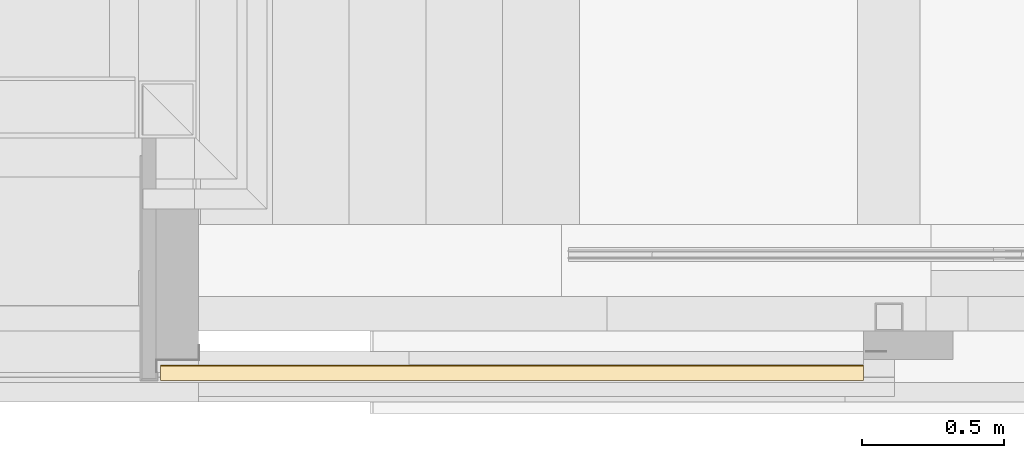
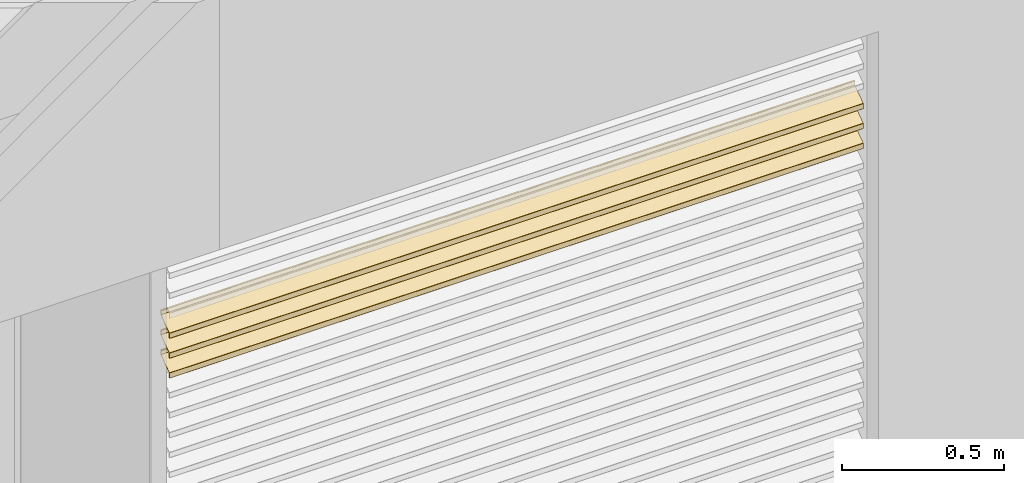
# One storey, part 111 of 165: 3 coverings, 1 element without a shape of its own.
"""IFC2X3 building model written with IfcOpenShell, lengths in millimetres."""

from ifc_helpers import new_model, entity, si_unit, converted_unit, derived_unit, money_unit, direction, frame, origin_with_axes, place, context, subcontext, project, spatial, faceted_brep, material, type_object, element, aggregate, save


model = new_model("IFC2X3")

# Units and contexts
model_context = context("Model", 3, precision=0.01, world=origin_with_axes(), true_north=direction((0.0, 1.0)))
body_context = subcontext(model_context, "Body", "Model", "MODEL_VIEW")
ifc_project = project(units=[si_unit("LENGTHUNIT", "METRE", prefix="MILLI"), si_unit("AREAUNIT", "SQUARE_METRE"), si_unit("VOLUMEUNIT", "CUBIC_METRE"), converted_unit("PLANEANGLEUNIT", "DEGREE", entity("IfcPlaneAngleMeasure", 0.0174532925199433), si_unit("PLANEANGLEUNIT", "RADIAN"), dimensions=[0, 0, 0, 0, 0, 0, 0]), money_unit("EUR"), converted_unit("TIMEUNIT", "Year", entity("IfcTimeMeasure", 31556926.0), si_unit("TIMEUNIT", "SECOND"), dimensions=[0, 0, 1, 0, 0, 0, 0]), si_unit("MASSUNIT", "GRAM", prefix="KILO"), si_unit("THERMODYNAMICTEMPERATUREUNIT", "DEGREE_CELSIUS"), si_unit("LUMINOUSINTENSITYUNIT", "LUMEN"), si_unit("ENERGYUNIT", "JOULE", prefix="MEGA"), derived_unit("THERMALCONDUCTANCEUNIT", [(si_unit("POWERUNIT", "WATT"), 1), (si_unit("LENGTHUNIT", "METRE"), -1), (si_unit("THERMODYNAMICTEMPERATUREUNIT", "KELVIN"), -1)]), derived_unit("SPECIFICHEATCAPACITYUNIT", [(si_unit("ENERGYUNIT", "JOULE"), 1), (si_unit("MASSUNIT", "GRAM", prefix="KILO"), -1), (si_unit("THERMODYNAMICTEMPERATUREUNIT", "KELVIN"), -1)]), derived_unit("MASSDENSITYUNIT", [(si_unit("MASSUNIT", "GRAM", prefix="KILO"), 1), (si_unit("VOLUMEUNIT", "CUBIC_METRE"), -1)])], contexts=[model_context])

# Site, building, storey
site_placement = place(None, origin_with_axes())
site = spatial("IfcSite", under=ifc_project, at=site_placement, Name="Site", CompositionType="ELEMENT")
building_placement = place(site_placement, origin_with_axes())
building = spatial("IfcBuilding", under=site, at=building_placement, Name="Naam gebouw", CompositionType="ELEMENT")
storey_placement = place(building_placement, origin_with_axes())
storey = spatial("IfcBuildingStorey", under=building, at=storey_placement, Name="Begane grond", CompositionType="ELEMENT", Elevation=0.0)

# Beam, coverings
beam_type = type_object("IfcBeamType", Name="30 Duco Louvre deur 55 x 2627", PredefinedType="BEAM")
beam_placement = place(storey_placement, frame((13900.0, -116.9904125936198, 0.0), z_axis=(0.0, 0.0, 1.0), x_axis=(0.0, 1.0, 0.0)))
beam = element("IfcBeam", 1, at=beam_placement, inside=storey, type_object=beam_type, Name="_Regenwaterafvoer-x", ObjectType="BEAM")
ifc_material = material(Name="Metaal - Aluminium")
covering_1_placement = place(beam_placement, origin_with_axes())
covering_1 = element("IfcCovering", 2, at=covering_1_placement, material=ifc_material, Name="Metaal - Aluminium", PredefinedType="NOTDEFINED", context=body_context, shape_type="Brep", body=[
    faceted_brep([(-4.027927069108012, 2473.999999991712, 2183.699501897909), (-56.57357643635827, 2473.999999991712, 2146.906642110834), (-56.57357643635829, 0.0, 2146.906642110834), (-4.027927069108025, 0.0, 2183.699501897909), (-3.90000000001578, 2473.999999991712, 2183.945247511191), (-3.90000000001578, 2473.999999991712, 2199.126428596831), (-3.975892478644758, 2473.999999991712, 2199.325867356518), (-4.165172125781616, 2473.999999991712, 2199.424400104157), (-4.372072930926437, 2473.999999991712, 2199.37217421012), (-5.427927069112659, 2473.999999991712, 2198.632857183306), (-5.634827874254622, 2473.999999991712, 2198.580631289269), (-5.824107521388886, 2473.999999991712, 2198.679164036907), (-5.900000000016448, 2473.999999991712, 2198.878602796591), (-5.900000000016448, 2473.999999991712, 2200.465609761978), (-5.772072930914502, 2473.999999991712, 2200.711355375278), (-2.944145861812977, 2473.999999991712, 2202.691491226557), (-2.53034425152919, 2473.999999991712, 2202.795943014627), (-2.151784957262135, 2473.999999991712, 2202.59887751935), (-2.000000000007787, 2473.999999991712, 2202.199999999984), (-2.000000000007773, 2473.999999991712, 2183.320567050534), (-2.426423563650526, 2473.999999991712, 2182.501415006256), (-26.08018232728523, 2473.999999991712, 2165.938874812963), (-26.40000000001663, 2473.999999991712, 2165.324510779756), (-26.40000000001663, 2473.999999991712, 2162.12781745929), (-26.61966991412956, 2473.999999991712, 2161.597487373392), (-28.05857864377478, 2473.999999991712, 2160.158578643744), (-28.20000000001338, 2473.999999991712, 2160.09999999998), (-28.3414213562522, 2473.999999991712, 2160.158578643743), (-28.40000000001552, 2473.999999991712, 2160.299999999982), (-28.40000000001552, 2473.999999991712, 2162.873784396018), (-28.58973119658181, 2473.999999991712, 2163.372381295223), (-29.06293031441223, 2473.999999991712, 2163.61871316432), (-29.58018232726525, 2473.999999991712, 2163.488148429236), (-30.60000000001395, 2473.999999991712, 2162.774064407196), (-30.60000000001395, 2473.999999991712, 2157.599999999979), (-30.74644660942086, 2473.999999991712, 2157.246446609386), (-31.10000000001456, 2473.999999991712, 2157.099999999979), (-32.10000000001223, 2473.999999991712, 2157.099999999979), (-32.45355339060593, 2473.999999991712, 2157.246446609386), (-32.60000000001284, 2473.999999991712, 2157.599999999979), (-32.60000000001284, 2473.999999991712, 2159.932912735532), (-32.78973119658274, 2473.999999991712, 2160.431509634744), (-33.26293031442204, 2473.999999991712, 2160.677841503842), (-33.780182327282, 2473.999999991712, 2160.547276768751), (-54.97207293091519, 2473.999999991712, 2145.708555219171), (-55.10000000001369, 2473.999999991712, 2145.462809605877), (-55.10000000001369, 2473.999999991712, 2129.973571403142), (-55.02410752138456, 2473.999999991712, 2129.774132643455), (-54.83482787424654, 2473.999999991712, 2129.675599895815), (-54.62792706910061, 2473.999999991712, 2129.727825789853), (-53.57207293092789, 2473.999999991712, 2130.467142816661), (-53.36517212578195, 2473.999999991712, 2130.519368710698), (-53.1758924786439, 2473.999999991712, 2130.420835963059), (-53.1000000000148, 2473.999999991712, 2130.221397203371), (-53.1000000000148, 2473.999999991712, 2128.634390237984), (-53.22792706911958, 2473.999999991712, 2128.38864462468), (-56.0558541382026, 2473.999999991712, 2126.408508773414), (-56.46965574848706, 2473.999999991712, 2126.304056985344), (-56.8482150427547, 2473.999999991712, 2126.50112248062), (-57.00000000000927, 2473.999999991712, 2126.899999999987), (-57.00000000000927, 2473.999999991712, 2146.087490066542), (-57.00000000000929, 0.0, 2146.087490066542), (-57.00000000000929, 0.0, 2126.899999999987), (-56.84821504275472, 0.0, 2126.50112248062), (-56.46965574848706, 0.0, 2126.304056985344), (-56.05585413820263, 0.0, 2126.408508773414), (-53.22792706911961, 0.0, 2128.38864462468), (-53.10000000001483, 0.0, 2128.634390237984), (-53.10000000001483, 0.0, 2130.221397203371), (-53.17589247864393, 0.0, 2130.420835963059), (-53.36517212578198, 0.0, 2130.519368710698), (-53.57207293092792, 0.0, 2130.467142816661), (-54.62792706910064, 0.0, 2129.727825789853), (-54.83482787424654, 0.0, 2129.675599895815), (-55.02410752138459, 0.0, 2129.774132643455), (-55.10000000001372, 0.0, 2129.973571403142), (-55.10000000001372, 0.0, 2145.462809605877), (-54.97207293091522, 0.0, 2145.708555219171), (-33.78018232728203, 0.0, 2160.547276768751), (-33.26293031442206, 0.0, 2160.677841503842), (-32.78973119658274, 0.0, 2160.431509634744), (-32.60000000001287, 0.0, 2159.932912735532), (-32.60000000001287, 0.0, 2157.599999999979), (-32.45355339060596, 0.0, 2157.246446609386), (-32.10000000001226, 0.0, 2157.099999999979), (-31.10000000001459, 0.0, 2157.099999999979), (-30.74644660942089, 0.0, 2157.246446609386), (-30.60000000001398, 0.0, 2157.599999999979), (-30.60000000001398, 0.0, 2162.774064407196), (-29.58018232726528, 0.0, 2163.488148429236), (-29.06293031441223, 0.0, 2163.61871316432), (-28.58973119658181, 0.0, 2163.372381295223), (-28.40000000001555, 0.0, 2162.873784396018), (-28.40000000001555, 0.0, 2160.299999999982), (-28.3414213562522, 0.0, 2160.158578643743), (-28.20000000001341, 0.0, 2160.09999999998), (-28.05857864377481, 0.0, 2160.158578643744), (-26.61966991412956, 0.0, 2161.597487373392), (-26.40000000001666, 0.0, 2162.12781745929), (-26.40000000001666, 0.0, 2165.324510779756), (-26.08018232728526, 0.0, 2165.938874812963), (-2.42642356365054, 0.0, 2182.501415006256), (-2.000000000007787, 0.0, 2183.320567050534), (-2.000000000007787, 0.0, 2202.199999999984), (-2.151784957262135, 0.0, 2202.59887751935), (-2.53034425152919, 0.0, 2202.795943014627), (-2.944145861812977, 0.0, 2202.691491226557), (-5.772072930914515, 0.0, 2200.711355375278), (-5.900000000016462, 0.0, 2200.465609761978), (-5.900000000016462, 0.0, 2198.878602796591), (-5.824107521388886, 0.0, 2198.679164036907), (-5.634827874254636, 0.0, 2198.580631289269), (-5.427927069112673, 0.0, 2198.632857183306), (-4.372072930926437, 0.0, 2199.37217421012), (-4.16517212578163, 0.0, 2199.424400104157), (-3.975892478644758, 0.0, 2199.325867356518), (-3.900000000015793, 0.0, 2199.126428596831), (-3.900000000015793, 0.0, 2183.945247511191)], [[[0, 1, 2, 3]], [[0, 4, 5, 6, 7, 8, 9, 10, 11, 12, 13, 14, 15, 16, 17, 18, 19, 20, 21, 22, 23, 24, 25, 26, 27, 28, 29, 30, 31, 32, 33, 34, 35, 36, 37, 38, 39, 40, 41, 42, 43, 44, 45, 46, 47, 48, 49, 50, 51, 52, 53, 54, 55, 56, 57, 58, 59, 60, 1]], [[1, 60, 61, 2]], [[3, 2, 61, 62, 63, 64, 65, 66, 67, 68, 69, 70, 71, 72, 73, 74, 75, 76, 77, 78, 79, 80, 81, 82, 83, 84, 85, 86, 87, 88, 89, 90, 91, 92, 93, 94, 95, 96, 97, 98, 99, 100, 101, 102, 103, 104, 105, 106, 107, 108, 109, 110, 111, 112, 113, 114, 115, 116, 117]], [[4, 0, 3, 117]], [[5, 4, 117, 116]], [[6, 5, 116, 115]], [[7, 6, 115, 114]], [[8, 7, 114, 113]], [[9, 8, 113, 112]], [[10, 9, 112, 111]], [[11, 10, 111, 110]], [[12, 11, 110, 109]], [[13, 12, 109, 108]], [[14, 13, 108, 107]], [[15, 14, 107, 106]], [[16, 15, 106, 105]], [[17, 16, 105, 104]], [[18, 17, 104, 103]], [[19, 18, 103, 102]], [[20, 19, 102, 101]], [[21, 20, 101, 100]], [[22, 21, 100, 99]], [[23, 22, 99, 98]], [[24, 23, 98, 97]], [[25, 24, 97, 96]], [[26, 25, 96, 95]], [[27, 26, 95, 94]], [[28, 27, 94, 93]], [[29, 28, 93, 92]], [[30, 29, 92, 91]], [[31, 30, 91, 90]], [[32, 31, 90, 89]], [[33, 32, 89, 88]], [[34, 33, 88, 87]], [[35, 34, 87, 86]], [[36, 35, 86, 85]], [[37, 36, 85, 84]], [[38, 37, 84, 83]], [[39, 38, 83, 82]], [[40, 39, 82, 81]], [[41, 40, 81, 80]], [[42, 41, 80, 79]], [[43, 42, 79, 78]], [[44, 43, 78, 77]], [[45, 44, 77, 76]], [[46, 45, 76, 75]], [[47, 46, 75, 74]], [[48, 47, 74, 73]], [[49, 48, 73, 72]], [[50, 49, 72, 71]], [[51, 50, 71, 70]], [[52, 51, 70, 69]], [[53, 52, 69, 68]], [[54, 53, 68, 67]], [[55, 54, 67, 66]], [[56, 55, 66, 65]], [[57, 56, 65, 64]], [[58, 57, 64, 63]], [[59, 58, 63, 62]], [[60, 59, 62, 61]]]),
])
covering_2_placement = place(beam_placement, origin_with_axes())
covering_2 = element("IfcCovering", 3, at=covering_2_placement, material=ifc_material, Name="Metaal - Aluminium", PredefinedType="NOTDEFINED", context=body_context, shape_type="Brep", body=[
    faceted_brep([(-4.027927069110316, 2473.999999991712, 2333.699501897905), (-56.57357643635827, 2473.999999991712, 2296.906642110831), (-56.57357643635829, 0.0, 2296.906642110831), (-4.027927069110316, 0.0, 2333.699501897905), (-3.90000000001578, 2473.999999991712, 2333.945247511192), (-3.90000000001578, 2473.999999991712, 2349.126428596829), (-3.975892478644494, 2473.999999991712, 2349.325867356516), (-4.165172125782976, 2473.999999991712, 2349.424400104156), (-4.372072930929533, 2473.999999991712, 2349.372174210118), (-5.42792706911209, 2473.999999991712, 2348.632857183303), (-5.634827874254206, 2473.999999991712, 2348.580631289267), (-5.824107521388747, 2473.999999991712, 2348.679164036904), (-5.900000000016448, 2473.999999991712, 2348.878602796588), (-5.900000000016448, 2473.999999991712, 2350.465609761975), (-5.772072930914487, 2473.999999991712, 2350.711355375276), (-2.944145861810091, 2473.999999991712, 2352.691491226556), (-2.530344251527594, 2473.999999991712, 2352.795943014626), (-2.151784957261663, 2473.999999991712, 2352.59887751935), (-2.000000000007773, 2473.999999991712, 2352.199999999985), (-2.000000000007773, 2473.999999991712, 2333.320567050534), (-2.426423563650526, 2473.999999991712, 2332.501415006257), (-26.08018232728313, 2473.999999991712, 2315.938874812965), (-26.40000000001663, 2473.999999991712, 2315.324510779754), (-26.40000000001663, 2473.999999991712, 2312.127817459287), (-26.61966991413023, 2473.999999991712, 2311.597487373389), (-28.05857864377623, 2473.999999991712, 2310.158578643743), (-28.20000000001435, 2473.999999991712, 2310.09999999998), (-28.34142135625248, 2473.999999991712, 2310.158578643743), (-28.40000000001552, 2473.999999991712, 2310.299999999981), (-28.40000000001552, 2473.999999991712, 2312.873784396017), (-28.58973119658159, 2473.999999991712, 2313.372381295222), (-29.06293031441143, 2473.999999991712, 2313.618713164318), (-29.58018232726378, 2473.999999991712, 2313.488148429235), (-30.60000000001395, 2473.999999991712, 2312.774064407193), (-30.60000000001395, 2473.999999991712, 2307.599999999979), (-30.74644660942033, 2473.999999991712, 2307.246446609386), (-31.10000000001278, 2473.999999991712, 2307.09999999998), (-32.10000000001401, 2473.999999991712, 2307.09999999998), (-32.45355339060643, 2473.999999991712, 2307.246446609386), (-32.60000000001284, 2473.999999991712, 2307.599999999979), (-32.60000000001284, 2473.999999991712, 2309.932912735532), (-32.78973119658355, 2473.999999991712, 2310.431509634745), (-33.26293031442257, 2473.999999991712, 2310.677841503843), (-33.780182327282, 2473.999999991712, 2310.547276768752), (-54.97207293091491, 2473.999999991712, 2295.708555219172), (-55.10000000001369, 2473.999999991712, 2295.462809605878), (-55.10000000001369, 2473.999999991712, 2279.973571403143), (-55.02410752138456, 2473.999999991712, 2279.774132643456), (-54.83482787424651, 2473.999999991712, 2279.675599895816), (-54.62792706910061, 2473.999999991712, 2279.727825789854), (-53.57207293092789, 2473.999999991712, 2280.467142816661), (-53.36517212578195, 2473.999999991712, 2280.519368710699), (-53.1758924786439, 2473.999999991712, 2280.42083596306), (-53.1000000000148, 2473.999999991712, 2280.221397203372), (-53.1000000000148, 2473.999999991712, 2278.634390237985), (-53.22792706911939, 2473.999999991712, 2278.38864462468), (-56.05585413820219, 2473.999999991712, 2276.408508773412), (-56.46965574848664, 2473.999999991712, 2276.304056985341), (-56.84821504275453, 2473.999999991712, 2276.501122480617), (-57.00000000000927, 2473.999999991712, 2276.899999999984), (-57.00000000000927, 2473.999999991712, 2296.087490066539), (-57.00000000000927, 0.0, 2296.087490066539), (-57.00000000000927, 0.0, 2276.899999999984), (-56.84821504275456, 0.0, 2276.501122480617), (-56.46965574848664, 0.0, 2276.304056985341), (-56.05585413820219, 0.0, 2276.408508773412), (-53.22792706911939, 0.0, 2278.38864462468), (-53.1000000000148, 0.0, 2278.634390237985), (-53.1000000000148, 0.0, 2280.221397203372), (-53.17589247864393, 0.0, 2280.42083596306), (-53.36517212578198, 0.0, 2280.519368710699), (-53.57207293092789, 0.0, 2280.467142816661), (-54.62792706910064, 0.0, 2279.727825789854), (-54.83482787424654, 0.0, 2279.675599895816), (-55.02410752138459, 0.0, 2279.774132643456), (-55.10000000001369, 0.0, 2279.973571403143), (-55.10000000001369, 0.0, 2295.462809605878), (-54.97207293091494, 0.0, 2295.708555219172), (-33.78018232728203, 0.0, 2310.547276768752), (-33.26293031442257, 0.0, 2310.677841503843), (-32.78973119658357, 0.0, 2310.431509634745), (-32.60000000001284, 0.0, 2309.932912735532), (-32.60000000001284, 0.0, 2307.599999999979), (-32.45355339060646, 0.0, 2307.246446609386), (-32.10000000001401, 0.0, 2307.09999999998), (-31.10000000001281, 0.0, 2307.09999999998), (-30.74644660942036, 0.0, 2307.246446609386), (-30.60000000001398, 0.0, 2307.599999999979), (-30.60000000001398, 0.0, 2312.774064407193), (-29.58018232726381, 0.0, 2313.488148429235), (-29.06293031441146, 0.0, 2313.618713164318), (-28.58973119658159, 0.0, 2313.372381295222), (-28.40000000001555, 0.0, 2312.873784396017), (-28.40000000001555, 0.0, 2310.299999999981), (-28.3414213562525, 0.0, 2310.158578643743), (-28.20000000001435, 0.0, 2310.09999999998), (-28.05857864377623, 0.0, 2310.158578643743), (-26.61966991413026, 0.0, 2311.597487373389), (-26.40000000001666, 0.0, 2312.127817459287), (-26.40000000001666, 0.0, 2315.324510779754), (-26.08018232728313, 0.0, 2315.938874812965), (-2.426423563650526, 0.0, 2332.501415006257), (-2.000000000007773, 0.0, 2333.320567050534), (-2.000000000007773, 0.0, 2352.199999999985), (-2.151784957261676, 0.0, 2352.59887751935), (-2.530344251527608, 0.0, 2352.795943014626), (-2.944145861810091, 0.0, 2352.691491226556), (-5.772072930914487, 0.0, 2350.711355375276), (-5.900000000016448, 0.0, 2350.465609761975), (-5.900000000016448, 0.0, 2348.878602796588), (-5.824107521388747, 0.0, 2348.679164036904), (-5.63482787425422, 0.0, 2348.580631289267), (-5.42792706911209, 0.0, 2348.632857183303), (-4.372072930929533, 0.0, 2349.372174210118), (-4.165172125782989, 0.0, 2349.424400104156), (-3.975892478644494, 0.0, 2349.325867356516), (-3.90000000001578, 0.0, 2349.126428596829), (-3.90000000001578, 0.0, 2333.945247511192)], [[[0, 1, 2, 3]], [[0, 4, 5, 6, 7, 8, 9, 10, 11, 12, 13, 14, 15, 16, 17, 18, 19, 20, 21, 22, 23, 24, 25, 26, 27, 28, 29, 30, 31, 32, 33, 34, 35, 36, 37, 38, 39, 40, 41, 42, 43, 44, 45, 46, 47, 48, 49, 50, 51, 52, 53, 54, 55, 56, 57, 58, 59, 60, 1]], [[1, 60, 61, 2]], [[3, 2, 61, 62, 63, 64, 65, 66, 67, 68, 69, 70, 71, 72, 73, 74, 75, 76, 77, 78, 79, 80, 81, 82, 83, 84, 85, 86, 87, 88, 89, 90, 91, 92, 93, 94, 95, 96, 97, 98, 99, 100, 101, 102, 103, 104, 105, 106, 107, 108, 109, 110, 111, 112, 113, 114, 115, 116, 117]], [[4, 0, 3, 117]], [[5, 4, 117, 116]], [[6, 5, 116, 115]], [[7, 6, 115, 114]], [[8, 7, 114, 113]], [[9, 8, 113, 112]], [[10, 9, 112, 111]], [[11, 10, 111, 110]], [[12, 11, 110, 109]], [[13, 12, 109, 108]], [[14, 13, 108, 107]], [[15, 14, 107, 106]], [[16, 15, 106, 105]], [[17, 16, 105, 104]], [[18, 17, 104, 103]], [[19, 18, 103, 102]], [[20, 19, 102, 101]], [[21, 20, 101, 100]], [[22, 21, 100, 99]], [[23, 22, 99, 98]], [[24, 23, 98, 97]], [[25, 24, 97, 96]], [[26, 25, 96, 95]], [[27, 26, 95, 94]], [[28, 27, 94, 93]], [[29, 28, 93, 92]], [[30, 29, 92, 91]], [[31, 30, 91, 90]], [[32, 31, 90, 89]], [[33, 32, 89, 88]], [[34, 33, 88, 87]], [[35, 34, 87, 86]], [[36, 35, 86, 85]], [[37, 36, 85, 84]], [[38, 37, 84, 83]], [[39, 38, 83, 82]], [[40, 39, 82, 81]], [[41, 40, 81, 80]], [[42, 41, 80, 79]], [[43, 42, 79, 78]], [[44, 43, 78, 77]], [[45, 44, 77, 76]], [[46, 45, 76, 75]], [[47, 46, 75, 74]], [[48, 47, 74, 73]], [[49, 48, 73, 72]], [[50, 49, 72, 71]], [[51, 50, 71, 70]], [[52, 51, 70, 69]], [[53, 52, 69, 68]], [[54, 53, 68, 67]], [[55, 54, 67, 66]], [[56, 55, 66, 65]], [[57, 56, 65, 64]], [[58, 57, 64, 63]], [[59, 58, 63, 62]], [[60, 59, 62, 61]]]),
])
covering_3_placement = place(beam_placement, origin_with_axes())
covering_3 = element("IfcCovering", 4, at=covering_3_placement, material=ifc_material, Name="Metaal - Aluminium", PredefinedType="NOTDEFINED", context=body_context, shape_type="Brep", body=[
    faceted_brep([(-4.027927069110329, 2473.999999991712, 2258.699501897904), (-56.57357643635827, 2473.999999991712, 2221.90664211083), (-56.57357643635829, 0.0, 2221.90664211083), (-4.027927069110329, 0.0, 2258.699501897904), (-3.900000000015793, 2473.999999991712, 2258.94524751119), (-3.900000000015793, 2473.999999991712, 2274.126428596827), (-3.975892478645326, 2473.999999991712, 2274.325867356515), (-4.165172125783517, 2473.999999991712, 2274.424400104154), (-4.372072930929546, 2473.999999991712, 2274.372174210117), (-5.427927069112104, 2473.999999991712, 2273.632857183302), (-5.63482787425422, 2473.999999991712, 2273.580631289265), (-5.82410752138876, 2473.999999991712, 2273.679164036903), (-5.900000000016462, 2473.999999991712, 2273.878602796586), (-5.900000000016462, 2473.999999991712, 2275.465609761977), (-5.772072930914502, 2473.999999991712, 2275.711355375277), (-2.944145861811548, 2473.999999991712, 2277.691491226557), (-2.530344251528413, 2473.999999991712, 2277.795943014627), (-2.151784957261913, 2473.999999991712, 2277.598877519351), (-2.000000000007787, 2473.999999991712, 2277.199999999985), (-2.000000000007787, 2473.999999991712, 2258.320567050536), (-2.426423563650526, 2473.999999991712, 2257.501415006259), (-26.08018232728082, 2473.999999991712, 2240.938874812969), (-26.40000000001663, 2473.999999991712, 2240.324510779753), (-26.40000000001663, 2473.999999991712, 2237.127817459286), (-26.6196699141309, 2473.999999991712, 2236.597487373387), (-28.05857864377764, 2473.999999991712, 2235.158578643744), (-28.2000000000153, 2473.999999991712, 2235.099999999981), (-28.34142135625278, 2473.999999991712, 2235.158578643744), (-28.40000000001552, 2473.999999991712, 2235.299999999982), (-28.40000000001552, 2473.999999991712, 2237.873784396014), (-28.58973119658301, 2473.999999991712, 2238.372381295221), (-29.06293031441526, 2473.999999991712, 2238.618713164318), (-29.58018232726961, 2473.999999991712, 2238.488148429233), (-30.60000000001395, 2473.999999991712, 2237.774064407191), (-30.60000000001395, 2473.999999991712, 2232.599999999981), (-30.74644660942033, 2473.999999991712, 2232.246446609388), (-31.10000000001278, 2473.999999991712, 2232.099999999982), (-32.10000000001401, 2473.999999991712, 2232.099999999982), (-32.45355339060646, 2473.999999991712, 2232.246446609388), (-32.60000000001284, 2473.999999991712, 2232.599999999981), (-32.60000000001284, 2473.999999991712, 2234.932912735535), (-32.78973119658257, 2473.999999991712, 2235.431509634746), (-33.26293031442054, 2473.999999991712, 2235.677841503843), (-33.78018232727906, 2473.999999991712, 2235.547276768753), (-54.97207293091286, 2473.999999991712, 2220.708555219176), (-55.10000000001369, 2473.999999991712, 2220.462809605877), (-55.10000000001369, 2473.999999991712, 2204.973571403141), (-55.02410752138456, 2473.999999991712, 2204.774132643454), (-54.83482787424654, 2473.999999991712, 2204.675599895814), (-54.62792706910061, 2473.999999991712, 2204.727825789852), (-53.57207293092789, 2473.999999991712, 2205.46714281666), (-53.36517212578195, 2473.999999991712, 2205.519368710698), (-53.1758924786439, 2473.999999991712, 2205.420835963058), (-53.1000000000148, 2473.999999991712, 2205.221397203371), (-53.1000000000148, 2473.999999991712, 2203.634390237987), (-53.22792706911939, 2473.999999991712, 2203.388644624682), (-56.05585413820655, 2473.999999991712, 2201.40850877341), (-56.46965574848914, 2473.999999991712, 2201.304056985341), (-56.84821504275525, 2473.999999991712, 2201.501122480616), (-57.00000000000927, 2473.999999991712, 2201.899999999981), (-57.00000000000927, 2473.999999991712, 2221.087490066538), (-57.00000000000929, 0.0, 2221.087490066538), (-57.00000000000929, 0.0, 2201.899999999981), (-56.84821504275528, 0.0, 2201.501122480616), (-56.46965574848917, 0.0, 2201.304056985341), (-56.05585413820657, 0.0, 2201.40850877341), (-53.22792706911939, 0.0, 2203.388644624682), (-53.10000000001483, 0.0, 2203.634390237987), (-53.10000000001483, 0.0, 2205.221397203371), (-53.17589247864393, 0.0, 2205.420835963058), (-53.36517212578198, 0.0, 2205.519368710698), (-53.57207293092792, 0.0, 2205.46714281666), (-54.62792706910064, 0.0, 2204.727825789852), (-54.83482787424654, 0.0, 2204.675599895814), (-55.02410752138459, 0.0, 2204.774132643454), (-55.10000000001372, 0.0, 2204.973571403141), (-55.10000000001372, 0.0, 2220.462809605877), (-54.97207293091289, 0.0, 2220.708555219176), (-33.78018232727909, 0.0, 2235.547276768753), (-33.26293031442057, 0.0, 2235.677841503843), (-32.78973119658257, 0.0, 2235.431509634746), (-32.60000000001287, 0.0, 2234.932912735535), (-32.60000000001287, 0.0, 2232.599999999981), (-32.45355339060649, 0.0, 2232.246446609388), (-32.10000000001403, 0.0, 2232.099999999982), (-31.10000000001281, 0.0, 2232.099999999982), (-30.74644660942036, 0.0, 2232.246446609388), (-30.60000000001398, 0.0, 2232.599999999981), (-30.60000000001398, 0.0, 2237.774064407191), (-29.58018232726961, 0.0, 2238.488148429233), (-29.06293031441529, 0.0, 2238.618713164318), (-28.58973119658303, 0.0, 2238.372381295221), (-28.40000000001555, 0.0, 2237.873784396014), (-28.40000000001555, 0.0, 2235.299999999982), (-28.34142135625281, 0.0, 2235.158578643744), (-28.20000000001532, 0.0, 2235.099999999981), (-28.05857864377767, 0.0, 2235.158578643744), (-26.61966991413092, 0.0, 2236.597487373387), (-26.40000000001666, 0.0, 2237.127817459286), (-26.40000000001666, 0.0, 2240.324510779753), (-26.08018232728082, 0.0, 2240.938874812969), (-2.42642356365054, 0.0, 2257.501415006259), (-2.000000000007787, 0.0, 2258.320567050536), (-2.000000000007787, 0.0, 2277.199999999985), (-2.151784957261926, 0.0, 2277.598877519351), (-2.530344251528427, 0.0, 2277.795943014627), (-2.944145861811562, 0.0, 2277.691491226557), (-5.772072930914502, 0.0, 2275.711355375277), (-5.900000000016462, 0.0, 2275.465609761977), (-5.900000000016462, 0.0, 2273.878602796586), (-5.82410752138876, 0.0, 2273.679164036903), (-5.63482787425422, 0.0, 2273.580631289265), (-5.427927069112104, 0.0, 2273.632857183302), (-4.372072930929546, 0.0, 2274.372174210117), (-4.165172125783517, 0.0, 2274.424400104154), (-3.975892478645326, 0.0, 2274.325867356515), (-3.900000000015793, 0.0, 2274.126428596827), (-3.900000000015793, 0.0, 2258.94524751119)], [[[0, 1, 2, 3]], [[0, 4, 5, 6, 7, 8, 9, 10, 11, 12, 13, 14, 15, 16, 17, 18, 19, 20, 21, 22, 23, 24, 25, 26, 27, 28, 29, 30, 31, 32, 33, 34, 35, 36, 37, 38, 39, 40, 41, 42, 43, 44, 45, 46, 47, 48, 49, 50, 51, 52, 53, 54, 55, 56, 57, 58, 59, 60, 1]], [[1, 60, 61, 2]], [[3, 2, 61, 62, 63, 64, 65, 66, 67, 68, 69, 70, 71, 72, 73, 74, 75, 76, 77, 78, 79, 80, 81, 82, 83, 84, 85, 86, 87, 88, 89, 90, 91, 92, 93, 94, 95, 96, 97, 98, 99, 100, 101, 102, 103, 104, 105, 106, 107, 108, 109, 110, 111, 112, 113, 114, 115, 116, 117]], [[4, 0, 3, 117]], [[5, 4, 117, 116]], [[6, 5, 116, 115]], [[7, 6, 115, 114]], [[8, 7, 114, 113]], [[9, 8, 113, 112]], [[10, 9, 112, 111]], [[11, 10, 111, 110]], [[12, 11, 110, 109]], [[13, 12, 109, 108]], [[14, 13, 108, 107]], [[15, 14, 107, 106]], [[16, 15, 106, 105]], [[17, 16, 105, 104]], [[18, 17, 104, 103]], [[19, 18, 103, 102]], [[20, 19, 102, 101]], [[21, 20, 101, 100]], [[22, 21, 100, 99]], [[23, 22, 99, 98]], [[24, 23, 98, 97]], [[25, 24, 97, 96]], [[26, 25, 96, 95]], [[27, 26, 95, 94]], [[28, 27, 94, 93]], [[29, 28, 93, 92]], [[30, 29, 92, 91]], [[31, 30, 91, 90]], [[32, 31, 90, 89]], [[33, 32, 89, 88]], [[34, 33, 88, 87]], [[35, 34, 87, 86]], [[36, 35, 86, 85]], [[37, 36, 85, 84]], [[38, 37, 84, 83]], [[39, 38, 83, 82]], [[40, 39, 82, 81]], [[41, 40, 81, 80]], [[42, 41, 80, 79]], [[43, 42, 79, 78]], [[44, 43, 78, 77]], [[45, 44, 77, 76]], [[46, 45, 76, 75]], [[47, 46, 75, 74]], [[48, 47, 74, 73]], [[49, 48, 73, 72]], [[50, 49, 72, 71]], [[51, 50, 71, 70]], [[52, 51, 70, 69]], [[53, 52, 69, 68]], [[54, 53, 68, 67]], [[55, 54, 67, 66]], [[56, 55, 66, 65]], [[57, 56, 65, 64]], [[58, 57, 64, 63]], [[59, 58, 63, 62]], [[60, 59, 62, 61]]]),
])
aggregate(beam, [covering_1, covering_2, covering_3])

save(model, "model.ifc")
